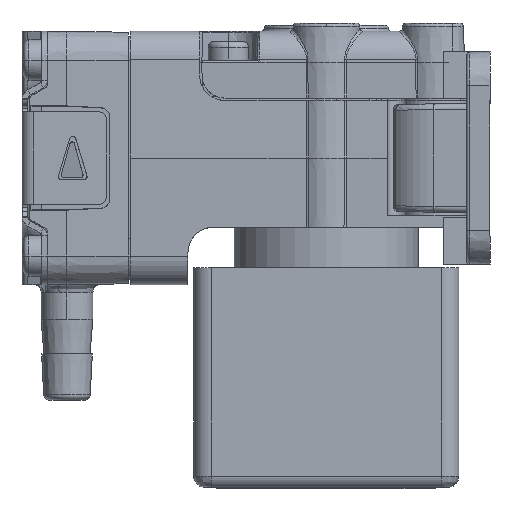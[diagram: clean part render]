
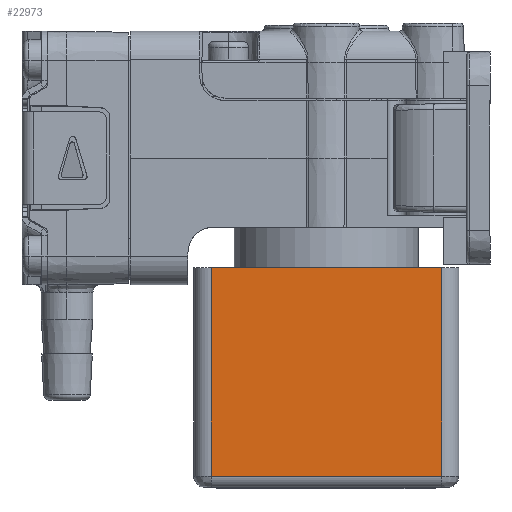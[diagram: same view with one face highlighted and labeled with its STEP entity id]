
A CAD part, left-side view. The second image highlights one B-rep face of the part: STEP entity #22973.
In plain terms, the highlighted planar face has unit normal (-1, 0, 0).
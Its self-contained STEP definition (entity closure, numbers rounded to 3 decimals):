
#7308=DIRECTION('',(0.,0.,-1.));
#7309=VECTOR('',#7308,18.1);
#7310=CARTESIAN_POINT('',(-12.,10.,-9.5));
#7311=LINE('',#7310,#7309);
#7312=DIRECTION('',(0.,-1.,0.));
#7313=VECTOR('',#7312,20.);
#7314=CARTESIAN_POINT('',(-12.,10.,-9.5));
#7315=LINE('',#7314,#7313);
#7320=DIRECTION('',(0.,-1.,0.));
#7321=VECTOR('',#7320,20.);
#7322=CARTESIAN_POINT('',(-12.,10.,-27.6));
#7323=LINE('',#7322,#7321);
#7339=DIRECTION('',(0.,0.,1.));
#7340=VECTOR('',#7339,18.1);
#7341=CARTESIAN_POINT('',(-12.,-10.,-27.6));
#7342=LINE('',#7341,#7340);
#9150=CARTESIAN_POINT('',(-12.,-10.,-9.5));
#9151=VERTEX_POINT('',#9150);
#9152=CARTESIAN_POINT('',(-12.,10.,-9.5));
#9153=VERTEX_POINT('',#9152);
#9198=CARTESIAN_POINT('',(-12.,10.,-27.6));
#9199=VERTEX_POINT('',#9198);
#9224=CARTESIAN_POINT('',(-12.,-10.,-27.6));
#9225=VERTEX_POINT('',#9224);
#22960=CARTESIAN_POINT('',(-12.,10.,-9.5));
#22961=DIRECTION('',(-1.,0.,0.));
#22962=DIRECTION('',(0.,-1.,0.));
#22963=AXIS2_PLACEMENT_3D('',#22960,#22961,#22962);
#22964=PLANE('',#22963);
#22966=ORIENTED_EDGE('',*,*,#22965,.F.);
#22967=ORIENTED_EDGE('',*,*,#22948,.F.);
#22968=ORIENTED_EDGE('',*,*,#22614,.T.);
#22970=ORIENTED_EDGE('',*,*,#22969,.F.);
#22971=EDGE_LOOP('',(#22966,#22967,#22968,#22970));
#22972=FACE_OUTER_BOUND('',#22971,.F.);
#22614=EDGE_CURVE('',#9153,#9151,#7315,.T.);
#22948=EDGE_CURVE('',#9153,#9199,#7311,.T.);
#22965=EDGE_CURVE('',#9199,#9225,#7323,.T.);
#22969=EDGE_CURVE('',#9225,#9151,#7342,.T.);
#22973=ADVANCED_FACE('',(#22972),#22964,.T.);
